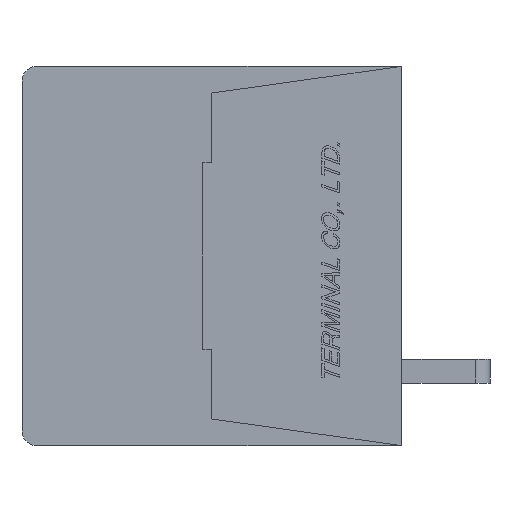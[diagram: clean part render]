
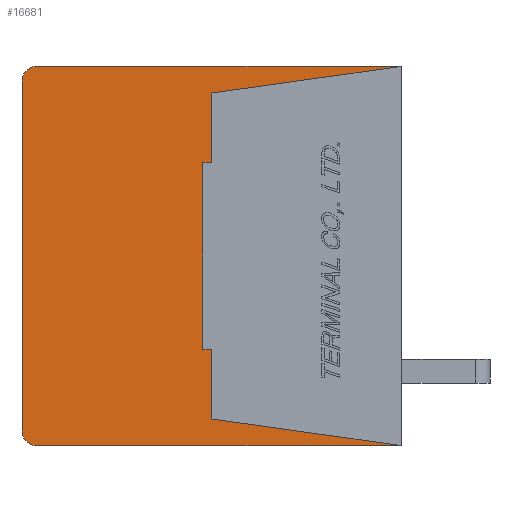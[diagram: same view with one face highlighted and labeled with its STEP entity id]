
A CAD part, left-side view. The second image highlights one B-rep face of the part: STEP entity #16681.
In plain terms, the highlighted planar face has unit normal (-1, 0, 0) as drawn and (1, 0, 0) by its records, which use the part's own axes.
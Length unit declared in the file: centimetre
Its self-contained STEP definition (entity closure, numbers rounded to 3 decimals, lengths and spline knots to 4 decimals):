
#850=CIRCLE('',#28261,0.05);
#851=CIRCLE('',#28262,0.05);
#1431=VERTEX_POINT('',#22850);
#1432=VERTEX_POINT('',#22852);
#1438=VERTEX_POINT('',#22866);
#1440=VERTEX_POINT('',#22872);
#1443=VERTEX_POINT('',#22880);
#1445=VERTEX_POINT('',#22886);
#1451=VERTEX_POINT('',#22900);
#1453=VERTEX_POINT('',#22906);
#1804=VERTEX_POINT('',#24444);
#1805=VERTEX_POINT('',#24446);
#1806=VERTEX_POINT('',#24448);
#1807=VERTEX_POINT('',#24450);
#3181=VECTOR('',#18818,1.);
#3188=VECTOR('',#18826,1.);
#3191=VECTOR('',#18830,1.);
#3194=VECTOR('',#18836,1.);
#3197=VECTOR('',#18840,1.);
#3204=VECTOR('',#18848,1.);
#3207=VECTOR('',#18852,1.);
#3625=VECTOR('',#19421,1.);
#3626=VECTOR('',#19424,1.);
#3627=VECTOR('',#19427,1.);
#5137=LINE('',#22851,#3181);
#5144=LINE('',#22865,#3188);
#5147=LINE('',#22871,#3191);
#5150=LINE('',#22879,#3194);
#5153=LINE('',#22885,#3197);
#5160=LINE('',#22899,#3204);
#5163=LINE('',#22905,#3207);
#5581=LINE('',#24443,#3625);
#5582=LINE('',#24447,#3626);
#5583=LINE('',#24451,#3627);
#7266=EDGE_CURVE('',#1432,#1431,#5137,.T.);
#7273=EDGE_CURVE('',#1438,#1432,#5144,.T.);
#7276=EDGE_CURVE('',#1440,#1438,#5147,.T.);
#7280=EDGE_CURVE('',#1443,#1440,#5150,.T.);
#7283=EDGE_CURVE('',#1445,#1443,#5153,.T.);
#7290=EDGE_CURVE('',#1451,#1445,#5160,.T.);
#7293=EDGE_CURVE('',#1453,#1451,#5163,.T.);
#7819=EDGE_CURVE('',#1431,#1804,#5581,.T.);
#7820=EDGE_CURVE('',#1805,#1804,#850,.T.);
#7821=EDGE_CURVE('',#1805,#1806,#5582,.T.);
#7822=EDGE_CURVE('',#1807,#1806,#851,.T.);
#7823=EDGE_CURVE('',#1807,#1453,#5583,.T.);
#11595=ORIENTED_EDGE('',*,*,#7266,.T.);
#11596=ORIENTED_EDGE('',*,*,#7819,.T.);
#11597=ORIENTED_EDGE('',*,*,#7820,.F.);
#11598=ORIENTED_EDGE('',*,*,#7821,.T.);
#11599=ORIENTED_EDGE('',*,*,#7822,.F.);
#11600=ORIENTED_EDGE('',*,*,#7823,.T.);
#11601=ORIENTED_EDGE('',*,*,#7293,.T.);
#11602=ORIENTED_EDGE('',*,*,#7290,.T.);
#11603=ORIENTED_EDGE('',*,*,#7283,.T.);
#11604=ORIENTED_EDGE('',*,*,#7280,.T.);
#11605=ORIENTED_EDGE('',*,*,#7276,.T.);
#11606=ORIENTED_EDGE('',*,*,#7273,.T.);
#14589=EDGE_LOOP('',(#11595,#11596,#11597,#11598,#11599,#11600,#11601,#11602,
#11603,#11604,#11605,#11606));
#15673=FACE_BOUND('',#14589,.T.);
#16681=ADVANCED_FACE('',(#15673),#17520,.F.);
#17520=PLANE('',#28260);
#18818=DIRECTION('',(0.,-0.99,-0.139));
#18826=DIRECTION('',(0.,0.,-1.));
#18830=DIRECTION('',(0.,-1.,0.));
#18836=DIRECTION('',(0.,0.,-1.));
#18840=DIRECTION('',(0.,1.,0.));
#18848=DIRECTION('',(0.,0.,-1.));
#18852=DIRECTION('',(0.,0.99,-0.139));
#19420=DIRECTION('',(-1.,0.,0.));
#19421=DIRECTION('',(0.,1.,0.));
#19422=DIRECTION('',(-1.,0.,0.));
#19423=DIRECTION('',(0.,0.,0.05));
#19424=DIRECTION('',(0.,0.,1.));
#19425=DIRECTION('',(-1.,0.,0.));
#19426=DIRECTION('',(0.,0.,0.05));
#19427=DIRECTION('',(0.,-1.,0.));
#22850=CARTESIAN_POINT('',(0.,0.,-0.64));
#22851=CARTESIAN_POINT('',(0.,0.64,-0.55));
#22852=CARTESIAN_POINT('',(0.,0.64,-0.55));
#22865=CARTESIAN_POINT('',(0.,0.64,-0.315));
#22866=CARTESIAN_POINT('',(0.,0.64,-0.315));
#22871=CARTESIAN_POINT('',(0.,0.67,-0.315));
#22872=CARTESIAN_POINT('',(0.,0.67,-0.315));
#22879=CARTESIAN_POINT('',(0.,0.67,0.315));
#22880=CARTESIAN_POINT('',(0.,0.67,0.315));
#22885=CARTESIAN_POINT('',(0.,0.64,0.315));
#22886=CARTESIAN_POINT('',(0.,0.64,0.315));
#22899=CARTESIAN_POINT('',(0.,0.64,0.55));
#22900=CARTESIAN_POINT('',(0.,0.64,0.55));
#22905=CARTESIAN_POINT('',(0.,0.,0.64));
#22906=CARTESIAN_POINT('',(0.,0.,0.64));
#24442=CARTESIAN_POINT('',(0.,0.6345,0.));
#24443=CARTESIAN_POINT('',(0.,0.,
-0.64));
#24444=CARTESIAN_POINT('',(0.,1.23,-0.64));
#24445=CARTESIAN_POINT('',(0.,1.23,-0.59));
#24446=CARTESIAN_POINT('',(0.,1.28,-0.59));
#24447=CARTESIAN_POINT('',(0.,1.28,-0.59));
#24448=CARTESIAN_POINT('',(0.,1.28,0.59));
#24449=CARTESIAN_POINT('',(0.,1.23,0.59));
#24450=CARTESIAN_POINT('',(0.,1.23,0.64));
#24451=CARTESIAN_POINT('',(0.,1.23,0.64));
#28260=AXIS2_PLACEMENT_3D('',#24442,#19420,$);
#28261=AXIS2_PLACEMENT_3D('',#24445,#19422,#19423);
#28262=AXIS2_PLACEMENT_3D('',#24449,#19425,#19426);
